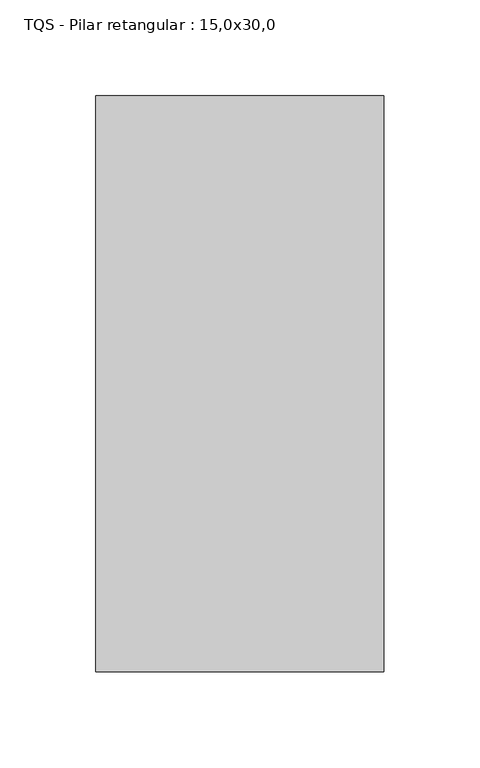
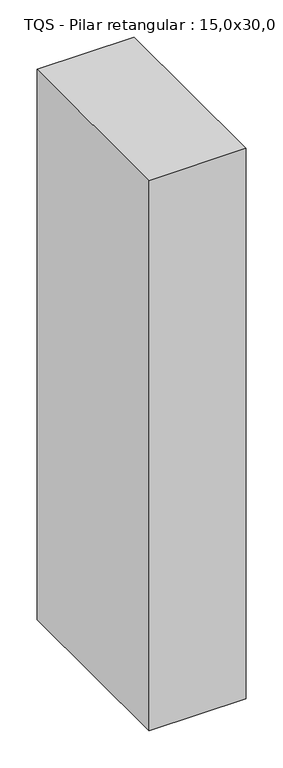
"""IFC4 building model written with IfcOpenShell, lengths in millimetres: column geometry, TQS - Pilar retangular : 15,0x30,0."""

from ifc_helpers import new_model, si_unit, origin, origin_with_axes, place, context, project, spatial, polyline, outline, extrude, source, transform, mapped, element, save


def tqs_pilar_retangular_15_0x30_0_0037dfdc(model_context):
    return source(origin(), model_context, "Body", "SweptSolid", [
        extrude(outline(polyline([(75.0, 150.0), (75.0, -150.0), (-75.0, -150.0), (-75.0, 150.0), (75.0, 150.0)])), origin_with_axes(), (0.0, 0.0, 1.0), 900.0),
    ])


if __name__ == "__main__":
    model = new_model("IFC4")
    model_context = context("Model", 3, world=origin())
    ifc_project = project(units=[si_unit("LENGTHUNIT", "METRE", prefix="MILLI")], contexts=[model_context])
    site = spatial("IfcSite", under=ifc_project)
    building = spatial("IfcBuilding", under=site)
    placement = place(None, origin())
    tqs_pilar_retangular_15_0x30_0_shape = tqs_pilar_retangular_15_0x30_0_0037dfdc(model_context)
    element("IfcColumn", 1, ObjectType="TQS - Pilar retangular : 15,0x30,0", at=placement, inside=building, context=model_context, shape_type="MappedRepresentation", body=[
        mapped(tqs_pilar_retangular_15_0x30_0_shape, transform((0.0, 0.0, 0.0), x_axis=(1.0, 0.0, 0.0), y_axis=(0.0, 1.0, 0.0), z_axis=(0.0, 0.0, 1.0))),
    ])
    save(model, "model.ifc")
